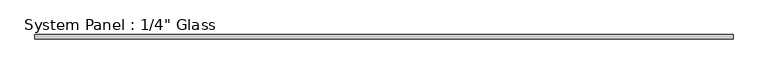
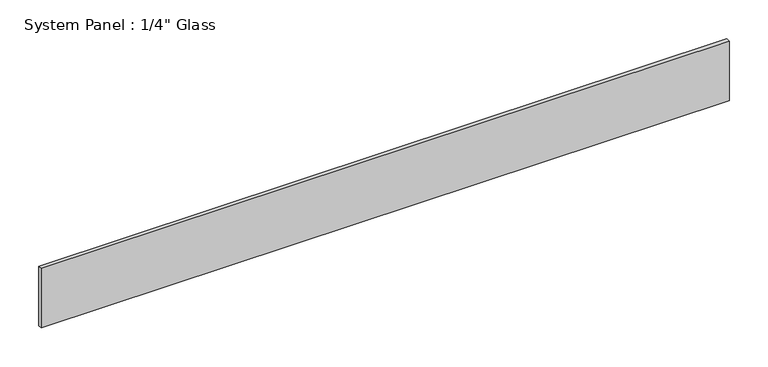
"""IFC4 building model written with IfcOpenShell, lengths in millimetres: plate geometry."""

from ifc_helpers import new_model, si_unit, origin, origin_with_axes, place, context, project, spatial, polyline, outline, extrude, source, transform, mapped, element, save


def plate_426640ee(model_context):
    return source(origin(), model_context, "Body", "SweptSolid", [
        extrude(outline(polyline([(514.756477, -3.175), (-514.756477, -3.175), (-514.756477, 3.175), (514.756477, 3.175), (514.756477, -3.175)])), origin_with_axes(), (0.0, 0.0, 1.0), 94.0923678),
    ])


if __name__ == "__main__":
    model = new_model("IFC4")
    model_context = context("Model", 3, world=origin())
    ifc_project = project(units=[si_unit("LENGTHUNIT", "METRE", prefix="MILLI")], contexts=[model_context])
    site = spatial("IfcSite", under=ifc_project)
    building = spatial("IfcBuilding", under=site)
    placement = place(None, origin())
    plate_shape = plate_426640ee(model_context)
    element("IfcPlate", 1, ObjectType="System Panel : 1/4\" Glass", at=placement, inside=building, context=model_context, shape_type="MappedRepresentation", body=[
        mapped(plate_shape, transform((0.0, 0.0, 0.0), x_axis=(1.0, 0.0, 0.0), y_axis=(0.0, 1.0, 0.0), z_axis=(0.0, 0.0, 1.0))),
    ])
    save(model, "model.ifc")
